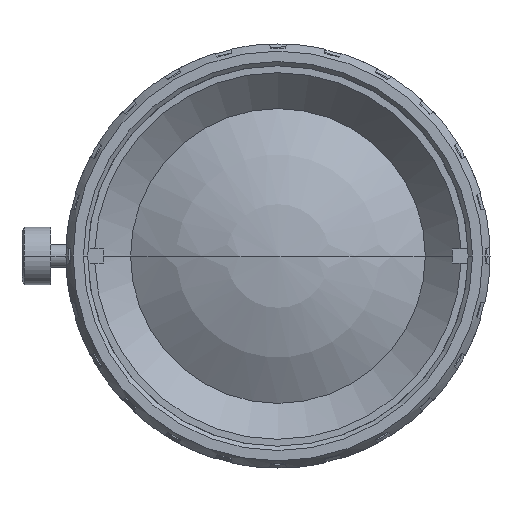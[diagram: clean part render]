
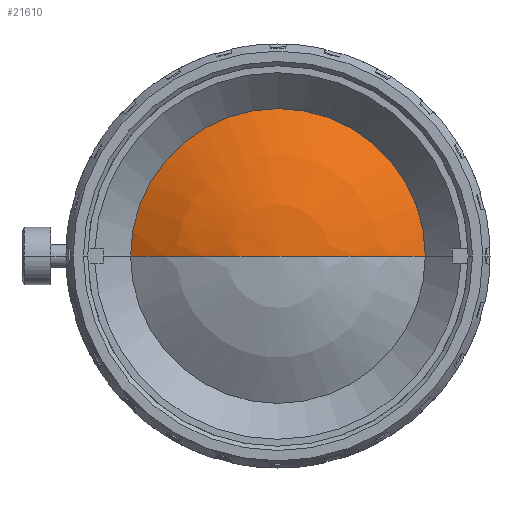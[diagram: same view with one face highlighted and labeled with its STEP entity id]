
A CAD part, left-side view. The second image highlights one B-rep face of the part: STEP entity #21610.
In plain terms, the highlighted spherical face has radius 18.248 mm.
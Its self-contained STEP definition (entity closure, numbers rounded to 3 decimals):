
#21190=CARTESIAN_POINT('',(-30.112,-10.25,0.));
#21200=VERTEX_POINT('',#21190);
#21230=CARTESIAN_POINT('',(-30.112,0.,0.));
#21240=DIRECTION('',(-1.,0.,0.));
#21250=DIRECTION('',(0.,1.,0.));
#21260=AXIS2_PLACEMENT_3D('',#21230,#21240,#21250);
#21270=CIRCLE('',#21260,10.25);
#21280=CARTESIAN_POINT('',(-30.112,10.25,0.));
#21290=VERTEX_POINT('',#21280);
#21300=EDGE_CURVE('',#21200,#21290,#21270,.T.);
#21420=CARTESIAN_POINT('',(-15.015,0.,0.));
#21430=DIRECTION('',(-1.,0.,0.));
#21440=DIRECTION('',(0.,1.,0.));
#21450=AXIS2_PLACEMENT_3D('',#21420,#21430,#21440);
#21460=SPHERICAL_SURFACE('',#21450,18.248);
#21470=CARTESIAN_POINT('',(-15.015,0.,0.));
#21480=DIRECTION('',(0.,0.,-1.));
#21490=DIRECTION('',(1.,-0.,0.));
#21500=AXIS2_PLACEMENT_3D('',#21470,#21480,#21490);
#21510=CIRCLE('',#21500,18.248);
#21520=CARTESIAN_POINT('',(-33.263,0.,0.));
#21530=VERTEX_POINT('',#21520);
#21540=EDGE_CURVE('',#21200,#21530,#21510,.T.);
#21550=ORIENTED_EDGE('',*,*,#21540,.F.);
#21560=EDGE_CURVE('',#21530,#21290,#21510,.T.);
#21570=ORIENTED_EDGE('',*,*,#21560,.F.);
#21580=ORIENTED_EDGE('',*,*,#21300,.T.);
#21590=EDGE_LOOP('',(#21580,#21570,#21550));
#21600=FACE_OUTER_BOUND('',#21590,.T.);
#21610=ADVANCED_FACE('',(#21600),#21460,.T.);
